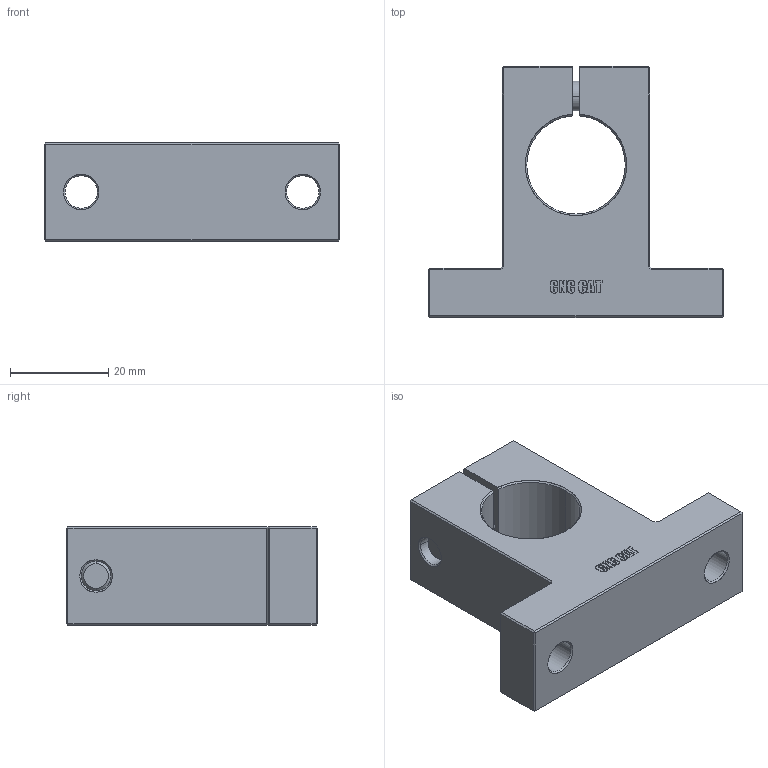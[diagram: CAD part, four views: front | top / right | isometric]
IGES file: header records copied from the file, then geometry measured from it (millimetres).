
Start section: SolidWorks IGES file using analytic representation for surfaces
Global section: file name: D:\SOLIDWORKS PROEKTI\freelance cnc cat\TRETA SERIJA SHF, SK\SK\SK20.IGS; native system: SolidWorks 2016; preprocessor: SolidWorks 2016; author: User; date: 170808.182027; units: millimetre
Bounding box: 60 x 51 x 20 mm (x, y, z)
Surface area: 9631.1 mm2 (no closed solid volume)
Topology: 0 solids, 0 shells, 191 faces, 2387 edges, 2866 vertices
Faces by surface type: bspline 150, revolution 41
